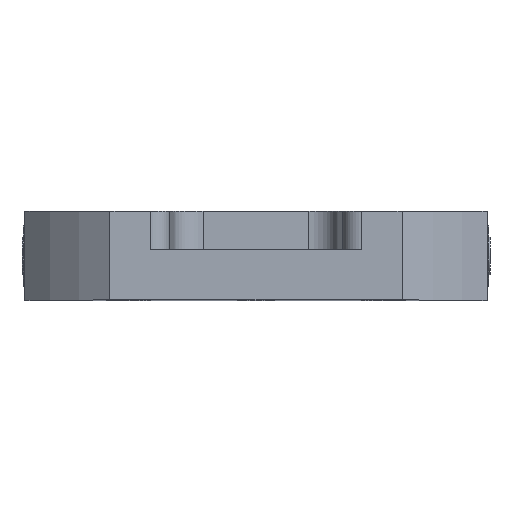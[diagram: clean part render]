
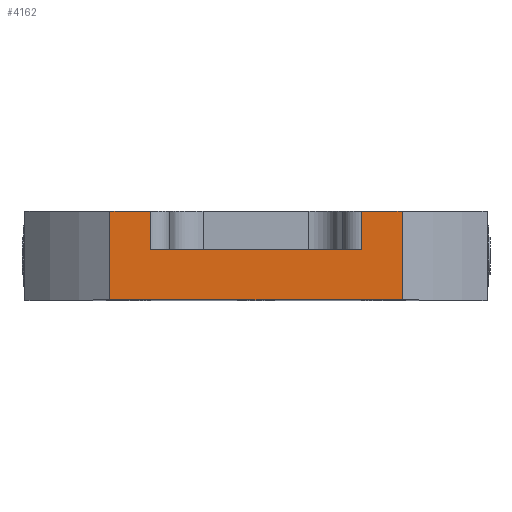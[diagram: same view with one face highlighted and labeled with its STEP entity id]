
A CAD part, top view. The second image highlights one B-rep face of the part: STEP entity #4162.
In plain terms, the highlighted planar face has unit normal (0, 0, 1).
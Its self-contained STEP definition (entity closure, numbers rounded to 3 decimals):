
#160 = CARTESIAN_POINT ( 'NONE',  ( -49.305, 30., 87. ) ) ;
#378 = LINE ( 'NONE', #6644, #2933 ) ;
#627 = VECTOR ( 'NONE', #7341, 1000. ) ;
#638 = DIRECTION ( 'NONE',  ( -1., 0., 0. ) ) ;
#753 = CARTESIAN_POINT ( 'NONE',  ( -35.664, 30., 87. ) ) ;
#832 = VERTEX_POINT ( 'NONE', #2292 ) ;
#1091 = EDGE_CURVE ( 'NONE', #6761, #2979, #7273, .T. ) ;
#1196 = CARTESIAN_POINT ( 'NONE',  ( -78., 30., 87. ) ) ;
#1294 = EDGE_CURVE ( 'NONE', #4221, #5798, #378, .T. ) ;
#1315 = LINE ( 'NONE', #2565, #5054 ) ;
#1411 = CARTESIAN_POINT ( 'NONE',  ( -29.845, 17.046, 87. ) ) ;
#1512 = CARTESIAN_POINT ( 'NONE',  ( 49.305, 0., 87. ) ) ;
#1617 = CARTESIAN_POINT ( 'NONE',  ( 35.664, 30., 87. ) ) ;
#1687 = CARTESIAN_POINT ( 'NONE',  ( -78., 30., 87. ) ) ;
#1797 = DIRECTION ( 'NONE',  ( 1., 0., 0. ) ) ;
#1823 = PLANE ( 'NONE',  #7293 ) ;
#1928 = ORIENTED_EDGE ( 'NONE', *, *, #6772, .F. ) ;
#2041 = ORIENTED_EDGE ( 'NONE', *, *, #7197, .T. ) ;
#2125 = VERTEX_POINT ( 'NONE', #5202 ) ;
#2184 = EDGE_CURVE ( 'NONE', #4221, #7384, #7248, .T. ) ;
#2292 = CARTESIAN_POINT ( 'NONE',  ( 49.305, 30., 87. ) ) ;
#2406 = LINE ( 'NONE', #1687, #7407 ) ;
#2565 = CARTESIAN_POINT ( 'NONE',  ( -78., 0., 87. ) ) ;
#2643 = ORIENTED_EDGE ( 'NONE', *, *, #3681, .T. ) ;
#2933 = VECTOR ( 'NONE', #4812, 1000. ) ;
#2973 = LINE ( 'NONE', #5361, #5514 ) ;
#2979 = VERTEX_POINT ( 'NONE', #6405 ) ;
#3022 = DIRECTION ( 'NONE',  ( 0., 0., -1. ) ) ;
#3038 = ORIENTED_EDGE ( 'NONE', *, *, #7408, .F. ) ;
#3147 = DIRECTION ( 'NONE',  ( 1., 0., 0. ) ) ;
#3221 = DIRECTION ( 'NONE',  ( 1., 0., 0. ) ) ;
#3681 = EDGE_CURVE ( 'NONE', #5798, #7513, #1315, .T. ) ;
#3752 = ORIENTED_EDGE ( 'NONE', *, *, #1091, .T. ) ;
#4159 = CARTESIAN_POINT ( 'NONE',  ( -78., 30., 87. ) ) ;
#4162 = ADVANCED_FACE ( 'NONE', ( #5540 ), #1823, .F. ) ;
#4221 = VERTEX_POINT ( 'NONE', #160 ) ;
#4404 = VECTOR ( 'NONE', #1797, 1000. ) ;
#4605 = DIRECTION ( 'NONE',  ( 0., -1., 0. ) ) ;
#4654 = LINE ( 'NONE', #1411, #4936 ) ;
#4664 = EDGE_LOOP ( 'NONE', ( #3038, #2041, #5341, #5484, #2643, #6658, #1928, #3752 ) ) ;
#4812 = DIRECTION ( 'NONE',  ( 0., -1., 0. ) ) ;
#4931 = CARTESIAN_POINT ( 'NONE',  ( -49.305, 0., 87. ) ) ;
#4936 = VECTOR ( 'NONE', #3221, 1000. ) ;
#5054 = VECTOR ( 'NONE', #3147, 1000. ) ;
#5202 = CARTESIAN_POINT ( 'NONE',  ( -35.664, 17.046, 87. ) ) ;
#5273 = CARTESIAN_POINT ( 'NONE',  ( 35.664, 30., 87. ) ) ;
#5341 = ORIENTED_EDGE ( 'NONE', *, *, #2184, .F. ) ;
#5361 = CARTESIAN_POINT ( 'NONE',  ( -35.664, 30., 87. ) ) ;
#5484 = ORIENTED_EDGE ( 'NONE', *, *, #1294, .T. ) ;
#5514 = VECTOR ( 'NONE', #7135, 1000. ) ;
#5540 = FACE_OUTER_BOUND ( 'NONE', #4664, .T. ) ;
#5679 = VECTOR ( 'NONE', #4605, 1000. ) ;
#5798 = VERTEX_POINT ( 'NONE', #4931 ) ;
#5904 = DIRECTION ( 'NONE',  ( 1., 0., 0. ) ) ;
#6334 = EDGE_CURVE ( 'NONE', #7513, #832, #7613, .T. ) ;
#6405 = CARTESIAN_POINT ( 'NONE',  ( 35.664, 17.046, 87. ) ) ;
#6644 = CARTESIAN_POINT ( 'NONE',  ( -49.305, 30., 87. ) ) ;
#6658 = ORIENTED_EDGE ( 'NONE', *, *, #6334, .T. ) ;
#6761 = VERTEX_POINT ( 'NONE', #1617 ) ;
#6772 = EDGE_CURVE ( 'NONE', #6761, #832, #2406, .T. ) ;
#7135 = DIRECTION ( 'NONE',  ( 0., 1., 0. ) ) ;
#7197 = EDGE_CURVE ( 'NONE', #2125, #7384, #2973, .T. ) ;
#7248 = LINE ( 'NONE', #1196, #4404 ) ;
#7273 = LINE ( 'NONE', #5273, #5679 ) ;
#7293 = AXIS2_PLACEMENT_3D ( 'NONE', #4159, #3022, #638 ) ;
#7341 = DIRECTION ( 'NONE',  ( 0., 1., 0. ) ) ;
#7368 = CARTESIAN_POINT ( 'NONE',  ( 49.305, 30., 87. ) ) ;
#7384 = VERTEX_POINT ( 'NONE', #753 ) ;
#7407 = VECTOR ( 'NONE', #5904, 1000. ) ;
#7408 = EDGE_CURVE ( 'NONE', #2125, #2979, #4654, .T. ) ;
#7513 = VERTEX_POINT ( 'NONE', #1512 ) ;
#7613 = LINE ( 'NONE', #7368, #627 ) ;
